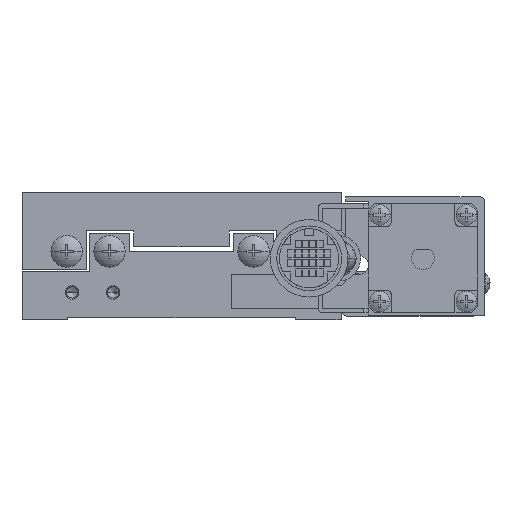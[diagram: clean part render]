
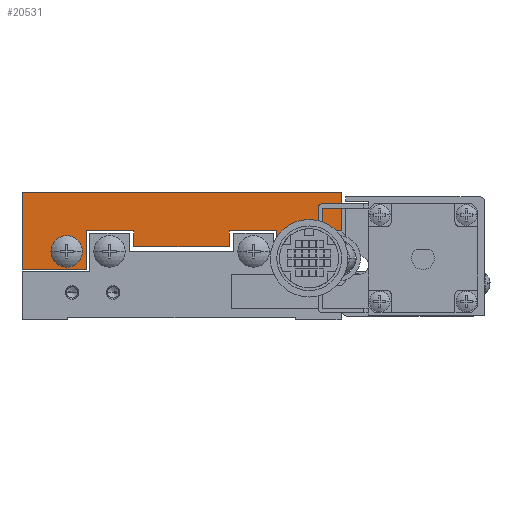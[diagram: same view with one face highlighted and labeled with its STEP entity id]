
A CAD part, left-side view. The second image highlights one B-rep face of the part: STEP entity #20531.
In plain terms, the highlighted planar face has unit normal (-1, 0, 0).
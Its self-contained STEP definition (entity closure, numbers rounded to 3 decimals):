
#720 = CARTESIAN_POINT ( 'NONE',  ( -55., 79.641, 123.041 ) ) ;
#1236 = DIRECTION ( 'NONE',  ( -1., 0., 0. ) ) ;
#1249 = DIRECTION ( 'NONE',  ( 0., 1., 0. ) ) ;
#2053 = CARTESIAN_POINT ( 'NONE',  ( -55., 76.191, 123.041 ) ) ;
#2144 = EDGE_CURVE ( 'NONE', #32103, #8879, #29112, .T. ) ;
#2441 = EDGE_CURVE ( 'NONE', #26601, #16487, #43560, .T. ) ;
#2915 = EDGE_CURVE ( 'NONE', #16344, #5883, #11300, .T. ) ;
#3447 = LINE ( 'NONE', #18659, #12340 ) ;
#4155 = VERTEX_POINT ( 'NONE', #5413 ) ;
#4526 = DIRECTION ( 'NONE',  ( 0., 1., 0. ) ) ;
#4740 = ORIENTED_EDGE ( 'NONE', *, *, #2915, .F. ) ;
#5209 = EDGE_CURVE ( 'NONE', #23211, #45480, #42770, .T. ) ;
#5413 = CARTESIAN_POINT ( 'NONE',  ( -55., 19.441, 136.041 ) ) ;
#5883 = VERTEX_POINT ( 'NONE', #40296 ) ;
#6250 = EDGE_LOOP ( 'NONE', ( #21090, #4740, #35136, #8046, #30946, #28416, #6328, #45344, #33199, #24762, #13880, #17719 ) ) ;
#6328 = ORIENTED_EDGE ( 'NONE', *, *, #5209, .F. ) ;
#6654 = VERTEX_POINT ( 'NONE', #33572 ) ;
#7509 = VERTEX_POINT ( 'NONE', #35410 ) ;
#7777 = CARTESIAN_POINT ( 'NONE',  ( -55., 29.241, 123.041 ) ) ;
#7817 = DIRECTION ( 'NONE',  ( 0., 0., -1. ) ) ;
#8046 = ORIENTED_EDGE ( 'NONE', *, *, #39127, .F. ) ;
#8304 = LINE ( 'NONE', #17951, #28382 ) ;
#8411 = CARTESIAN_POINT ( 'NONE',  ( -55., 64.941, 127.541 ) ) ;
#8448 = CARTESIAN_POINT ( 'NONE',  ( -55., 54.441, 136.041 ) ) ;
#8553 = DIRECTION ( 'NONE',  ( -1., 0., 0. ) ) ;
#8879 = VERTEX_POINT ( 'NONE', #29217 ) ;
#8895 = EDGE_CURVE ( 'NONE', #4155, #7509, #3447, .T. ) ;
#9092 = VECTOR ( 'NONE', #17378, 1000. ) ;
#9347 = VECTOR ( 'NONE', #17452, 1000. ) ;
#10341 = CARTESIAN_POINT ( 'NONE',  ( -55., 83.941, 119.041 ) ) ;
#10515 = DIRECTION ( 'NONE',  ( 0., 0., -1. ) ) ;
#10529 = EDGE_LOOP ( 'NONE', ( #30964, #39568 ) ) ;
#10945 = EDGE_CURVE ( 'NONE', #13435, #4155, #18847, .T. ) ;
#11300 = LINE ( 'NONE', #28429, #32979 ) ;
#11389 = VECTOR ( 'NONE', #28412, 1000. ) ;
#11789 = DIRECTION ( 'NONE',  ( -1., 0., 0. ) ) ;
#12340 = VECTOR ( 'NONE', #36036, 1000. ) ;
#13276 = LINE ( 'NONE', #39840, #45536 ) ;
#13435 = VERTEX_POINT ( 'NONE', #27927 ) ;
#13472 = ORIENTED_EDGE ( 'NONE', *, *, #2441, .F. ) ;
#13880 = ORIENTED_EDGE ( 'NONE', *, *, #10945, .F. ) ;
#14484 = CARTESIAN_POINT ( 'NONE',  ( -55., 33.541, 127.291 ) ) ;
#15275 = LINE ( 'NONE', #14484, #45793 ) ;
#15417 = AXIS2_PLACEMENT_3D ( 'NONE', #43979, #8553, #1249 ) ;
#15621 = DIRECTION ( 'NONE',  ( 0., 0., -1. ) ) ;
#15876 = LINE ( 'NONE', #35091, #11389 ) ;
#16344 = VERTEX_POINT ( 'NONE', #22594 ) ;
#16487 = VERTEX_POINT ( 'NONE', #2053 ) ;
#17378 = DIRECTION ( 'NONE',  ( 0., 1., 0. ) ) ;
#17452 = DIRECTION ( 'NONE',  ( 0., -1., 0. ) ) ;
#17719 = ORIENTED_EDGE ( 'NONE', *, *, #45993, .F. ) ;
#17951 = CARTESIAN_POINT ( 'NONE',  ( -55., 64.941, 124.041 ) ) ;
#18057 = CARTESIAN_POINT ( 'NONE',  ( -55., 89.441, 119.041 ) ) ;
#18174 = AXIS2_PLACEMENT_3D ( 'NONE', #7777, #1236, #4526 ) ;
#18617 = LINE ( 'NONE', #8411, #35824 ) ;
#18659 = CARTESIAN_POINT ( 'NONE',  ( -55., 19.441, 136.041 ) ) ;
#18711 = EDGE_CURVE ( 'NONE', #7509, #6654, #25308, .T. ) ;
#18847 = LINE ( 'NONE', #35912, #9347 ) ;
#18848 = VERTEX_POINT ( 'NONE', #18057 ) ;
#19253 = EDGE_LOOP ( 'NONE', ( #13472, #37582 ) ) ;
#20180 = CARTESIAN_POINT ( 'NONE',  ( -55., 43.941, 127.541 ) ) ;
#20531 = ADVANCED_FACE ( 'NONE', ( #41557, #22144, #35500 ), #33342, .F. ) ;
#21090 = ORIENTED_EDGE ( 'NONE', *, *, #40647, .F. ) ;
#21647 = DIRECTION ( 'NONE',  ( 0., 0., 1. ) ) ;
#22112 = EDGE_CURVE ( 'NONE', #23446, #25558, #15876, .T. ) ;
#22144 = FACE_BOUND ( 'NONE', #19253, .T. ) ;
#22273 = DIRECTION ( 'NONE',  ( 0., 0., 1. ) ) ;
#22594 = CARTESIAN_POINT ( 'NONE',  ( -55., 75.341, 127.541 ) ) ;
#22767 = DIRECTION ( 'NONE',  ( 0., 0., 1. ) ) ;
#23098 = CARTESIAN_POINT ( 'NONE',  ( -55., 25.791, 123.041 ) ) ;
#23211 = VERTEX_POINT ( 'NONE', #45000 ) ;
#23295 = VECTOR ( 'NONE', #31290, 1000. ) ;
#23446 = VERTEX_POINT ( 'NONE', #43242 ) ;
#24239 = DIRECTION ( 'NONE',  ( 0., 1., 0. ) ) ;
#24762 = ORIENTED_EDGE ( 'NONE', *, *, #8895, .F. ) ;
#25308 = LINE ( 'NONE', #41628, #35320 ) ;
#25558 = VERTEX_POINT ( 'NONE', #45851 ) ;
#25796 = DIRECTION ( 'NONE',  ( 0., 1., 0. ) ) ;
#26601 = VERTEX_POINT ( 'NONE', #45006 ) ;
#27073 = CARTESIAN_POINT ( 'NONE',  ( -55., 29.241, 123.041 ) ) ;
#27927 = CARTESIAN_POINT ( 'NONE',  ( -55., 89.441, 136.041 ) ) ;
#28382 = VECTOR ( 'NONE', #22273, 1000. ) ;
#28412 = DIRECTION ( 'NONE',  ( 0., 1., 0. ) ) ;
#28416 = ORIENTED_EDGE ( 'NONE', *, *, #43529, .F. ) ;
#28429 = CARTESIAN_POINT ( 'NONE',  ( -55., 75.341, 127.291 ) ) ;
#29112 = CIRCLE ( 'NONE', #33535, 3.45 ) ;
#29217 = CARTESIAN_POINT ( 'NONE',  ( -55., 32.691, 123.041 ) ) ;
#29423 = EDGE_CURVE ( 'NONE', #43585, #16344, #18617, .T. ) ;
#30353 = DIRECTION ( 'NONE',  ( -1., 0., 0. ) ) ;
#30946 = ORIENTED_EDGE ( 'NONE', *, *, #22112, .F. ) ;
#30964 = ORIENTED_EDGE ( 'NONE', *, *, #33976, .F. ) ;
#31290 = DIRECTION ( 'NONE',  ( 0., 1., 0. ) ) ;
#32103 = VERTEX_POINT ( 'NONE', #23098 ) ;
#32118 = CARTESIAN_POINT ( 'NONE',  ( -55., 64.941, 127.541 ) ) ;
#32243 = CIRCLE ( 'NONE', #18174, 3.45 ) ;
#32876 = CIRCLE ( 'NONE', #15417, 3.45 ) ;
#32923 = EDGE_CURVE ( 'NONE', #6654, #23211, #15275, .T. ) ;
#32979 = VECTOR ( 'NONE', #10515, 1000. ) ;
#33199 = ORIENTED_EDGE ( 'NONE', *, *, #18711, .F. ) ;
#33291 = DIRECTION ( 'NONE',  ( 0., 1., 0. ) ) ;
#33342 = PLANE ( 'NONE',  #34573 ) ;
#33535 = AXIS2_PLACEMENT_3D ( 'NONE', #27073, #30353, #34378 ) ;
#33572 = CARTESIAN_POINT ( 'NONE',  ( -55., 33.541, 119.041 ) ) ;
#33976 = EDGE_CURVE ( 'NONE', #8879, #32103, #32243, .T. ) ;
#34378 = DIRECTION ( 'NONE',  ( 0., 1., 0. ) ) ;
#34573 = AXIS2_PLACEMENT_3D ( 'NONE', #8448, #40015, #15621 ) ;
#34809 = VECTOR ( 'NONE', #22767, 1000. ) ;
#35091 = CARTESIAN_POINT ( 'NONE',  ( -55., 43.941, 124.041 ) ) ;
#35136 = ORIENTED_EDGE ( 'NONE', *, *, #29423, .F. ) ;
#35320 = VECTOR ( 'NONE', #24239, 1000. ) ;
#35410 = CARTESIAN_POINT ( 'NONE',  ( -55., 19.441, 119.041 ) ) ;
#35500 = FACE_BOUND ( 'NONE', #10529, .T. ) ;
#35824 = VECTOR ( 'NONE', #33291, 1000. ) ;
#35912 = CARTESIAN_POINT ( 'NONE',  ( -55., 89.441, 136.041 ) ) ;
#36036 = DIRECTION ( 'NONE',  ( 0., 0., -1. ) ) ;
#37582 = ORIENTED_EDGE ( 'NONE', *, *, #42522, .F. ) ;
#39127 = EDGE_CURVE ( 'NONE', #25558, #43585, #8304, .T. ) ;
#39568 = ORIENTED_EDGE ( 'NONE', *, *, #2144, .F. ) ;
#39783 = AXIS2_PLACEMENT_3D ( 'NONE', #720, #11789, #25796 ) ;
#39840 = CARTESIAN_POINT ( 'NONE',  ( -55., 43.941, 127.041 ) ) ;
#39914 = LINE ( 'NONE', #44186, #34809 ) ;
#40015 = DIRECTION ( 'NONE',  ( 1., 0., 0. ) ) ;
#40296 = CARTESIAN_POINT ( 'NONE',  ( -55., 75.341, 119.041 ) ) ;
#40647 = EDGE_CURVE ( 'NONE', #5883, #18848, #45817, .T. ) ;
#41557 = FACE_OUTER_BOUND ( 'NONE', #6250, .T. ) ;
#41628 = CARTESIAN_POINT ( 'NONE',  ( -55., 19.441, 119.041 ) ) ;
#42522 = EDGE_CURVE ( 'NONE', #16487, #26601, #32876, .T. ) ;
#42770 = LINE ( 'NONE', #45414, #23295 ) ;
#43242 = CARTESIAN_POINT ( 'NONE',  ( -55., 43.941, 124.041 ) ) ;
#43529 = EDGE_CURVE ( 'NONE', #45480, #23446, #13276, .T. ) ;
#43560 = CIRCLE ( 'NONE', #39783, 3.45 ) ;
#43585 = VERTEX_POINT ( 'NONE', #32118 ) ;
#43979 = CARTESIAN_POINT ( 'NONE',  ( -55., 79.641, 123.041 ) ) ;
#44186 = CARTESIAN_POINT ( 'NONE',  ( -55., 89.441, 119.041 ) ) ;
#45000 = CARTESIAN_POINT ( 'NONE',  ( -55., 33.541, 127.541 ) ) ;
#45006 = CARTESIAN_POINT ( 'NONE',  ( -55., 83.091, 123.041 ) ) ;
#45344 = ORIENTED_EDGE ( 'NONE', *, *, #32923, .F. ) ;
#45414 = CARTESIAN_POINT ( 'NONE',  ( -55., 33.541, 127.541 ) ) ;
#45480 = VERTEX_POINT ( 'NONE', #20180 ) ;
#45536 = VECTOR ( 'NONE', #7817, 1000. ) ;
#45793 = VECTOR ( 'NONE', #21647, 1000. ) ;
#45817 = LINE ( 'NONE', #10341, #9092 ) ;
#45851 = CARTESIAN_POINT ( 'NONE',  ( -55., 64.941, 124.041 ) ) ;
#45993 = EDGE_CURVE ( 'NONE', #18848, #13435, #39914, .T. ) ;
